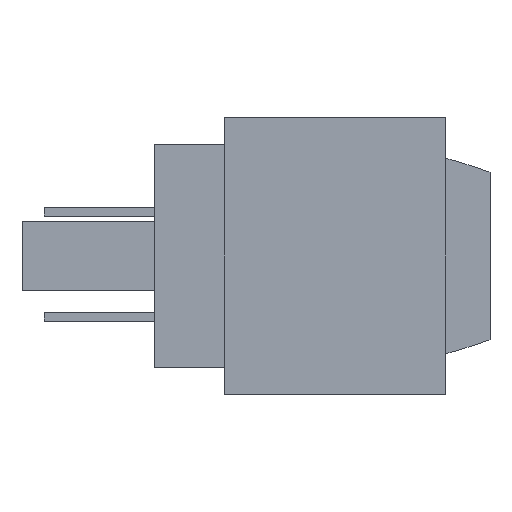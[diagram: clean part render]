
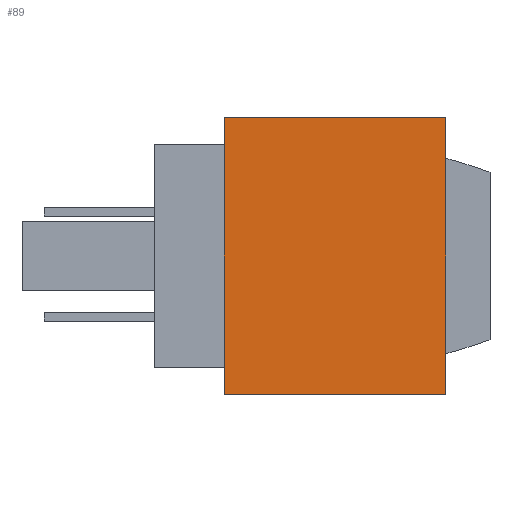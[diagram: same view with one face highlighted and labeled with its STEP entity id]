
A CAD part, front view. The second image highlights one B-rep face of the part: STEP entity #89.
In plain terms, the highlighted planar face has unit normal (0, -1, 0).
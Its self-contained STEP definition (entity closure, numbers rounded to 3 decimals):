
#89 = ADVANCED_FACE( '', ( #213 ), #214, .F. );
#213 = FACE_OUTER_BOUND( '', #380, .T. );
#214 = PLANE( '', #381 );
#380 = EDGE_LOOP( '', ( #589, #590, #591, #592 ) );
#381 = AXIS2_PLACEMENT_3D( '', #593, #594, #595 );
#589 = ORIENTED_EDGE( '', *, *, #968, .T. );
#590 = ORIENTED_EDGE( '', *, *, #953, .F. );
#591 = ORIENTED_EDGE( '', *, *, #980, .F. );
#592 = ORIENTED_EDGE( '', *, *, #981, .T. );
#593 = CARTESIAN_POINT( '', ( -10., -17.8, 12.5 ) );
#594 = DIRECTION( '', ( 0., 1., 0. ) );
#595 = DIRECTION( '', ( 0., 0., 1. ) );
#953 = EDGE_CURVE( '', #1126, #1128, #1129, .T. );
#968 = EDGE_CURVE( '', #1153, #1128, #1154, .T. );
#980 = EDGE_CURVE( '', #1172, #1126, #1173, .T. );
#981 = EDGE_CURVE( '', #1172, #1153, #1174, .T. );
#1126 = VERTEX_POINT( '', #1372 );
#1128 = VERTEX_POINT( '', #1375 );
#1129 = LINE( '', #1376, #1377 );
#1153 = VERTEX_POINT( '', #1411 );
#1154 = LINE( '', #1412, #1413 );
#1172 = VERTEX_POINT( '', #1439 );
#1173 = LINE( '', #1440, #1441 );
#1174 = LINE( '', #1442, #1443 );
#1372 = CARTESIAN_POINT( '', ( 10., -17.8, 12.5 ) );
#1375 = CARTESIAN_POINT( '', ( 10., -17.8, -12.5 ) );
#1376 = CARTESIAN_POINT( '', ( 10., -17.8, 12.5 ) );
#1377 = VECTOR( '', #1691, 1000. );
#1411 = CARTESIAN_POINT( '', ( -10., -17.8, -12.5 ) );
#1412 = CARTESIAN_POINT( '', ( -10., -17.8, -12.5 ) );
#1413 = VECTOR( '', #1705, 1000. );
#1439 = CARTESIAN_POINT( '', ( -10., -17.8, 12.5 ) );
#1440 = CARTESIAN_POINT( '', ( -10., -17.8, 12.5 ) );
#1441 = VECTOR( '', #1714, 1000. );
#1442 = CARTESIAN_POINT( '', ( -10., -17.8, 12.5 ) );
#1443 = VECTOR( '', #1715, 1000. );
#1691 = DIRECTION( '', ( 0., 0., -1. ) );
#1705 = DIRECTION( '', ( 1., 0., 0. ) );
#1714 = DIRECTION( '', ( 1., 0., 0. ) );
#1715 = DIRECTION( '', ( 0., 0., -1. ) );
